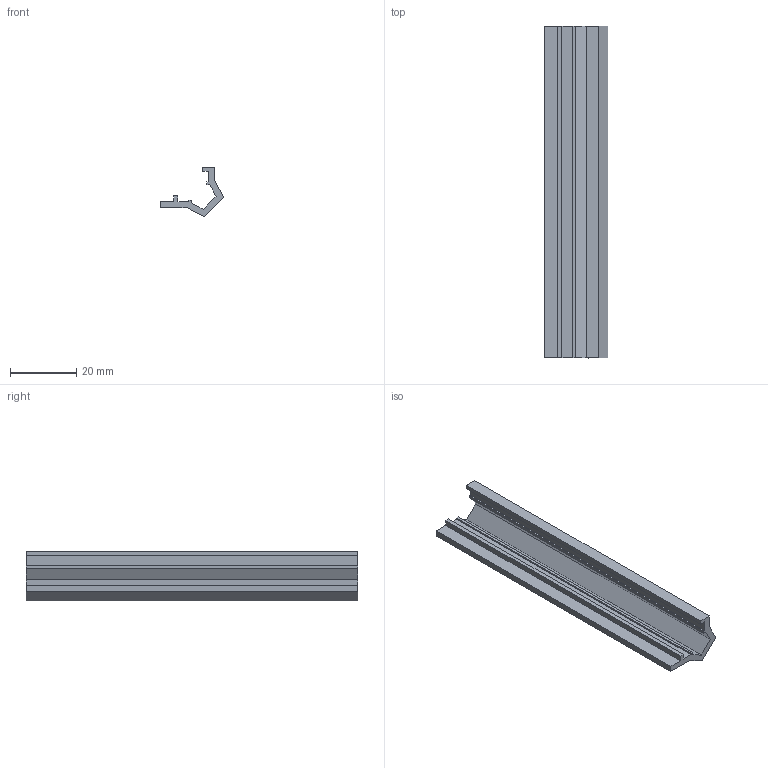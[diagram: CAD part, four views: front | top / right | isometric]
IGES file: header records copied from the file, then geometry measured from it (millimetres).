
Start section: Data from Parasolid IGES Translator 20.0.26, Copyright(c) 2006 Siemens P LM Software. All Rights Reserved.
Global section: file name: 9303924.igs; native system: By Siemens PLM Incorporated; preprocessor: XPlus GENERIC/IGES 20.0.26; author: Noname; organization: Noname; date: 20210825.155948; units: millimetre
Bounding box: 19.14 x 100 x 15.04 mm (x, y, z)
Surface area: 7501.6 mm2 (no closed solid volume)
Topology: 0 solids, 0 shells, 26 faces, 144 edges, 144 vertices
Faces by surface type: extrusion 26
